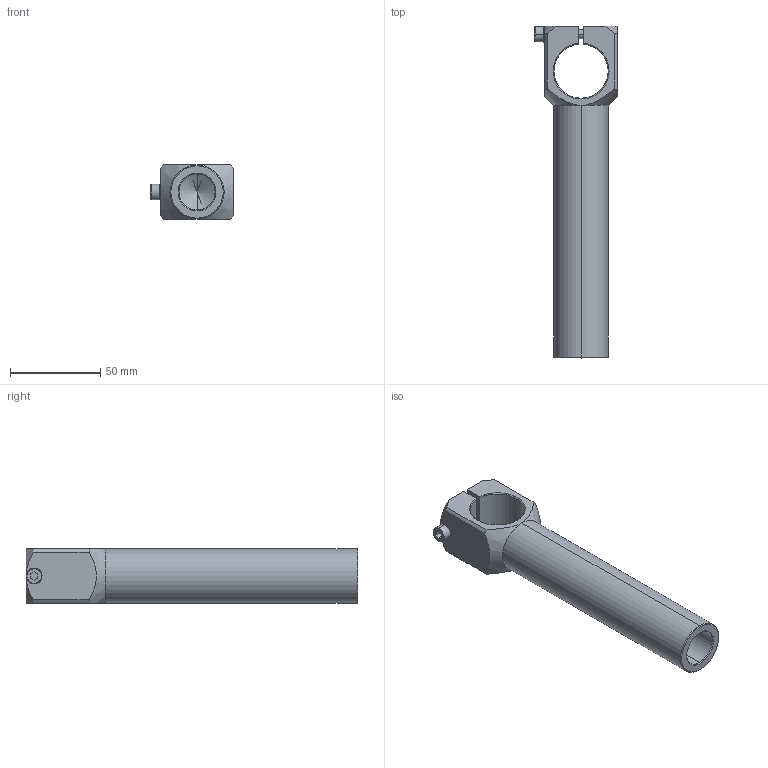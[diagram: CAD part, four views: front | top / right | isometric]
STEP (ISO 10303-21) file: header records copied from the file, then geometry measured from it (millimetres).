
FILE_DESCRIPTION (( 'STEP AP214' ), '1' );
FILE_NAME ('SCA1-3030L140T.STEP', '2023-01-12T01:29:54', ( 'Windows User' ), ( 'P R C' ), 'SwSTEP 2.0', 'SolidWorks 2019', '' );
FILE_SCHEMA (( 'AUTOMOTIVE_DESIGN' ));
Length unit declared in the file: millimetre
Products named in the file (1): SCA1-3030L140T
Bounding box: 45.6 x 184 x 30 mm (x, y, z)
Volume: 86404.3 mm3; surface area: 32449.6 mm2
Topology: 3 solids, 3 shells, 256 faces, 722 edges, 471 vertices
Faces by surface type: plane 211, cylinder 23, cone 20, bspline 2
Entity records: 11406 total; most frequent: CARTESIAN_POINT 1735, DIRECTION 1454, ORIENTED_EDGE 1440, EDGE_CURVE 720, AXIS2_PLACEMENT_3D 501, VERTEX_POINT 471, LINE 452, VECTOR 452
